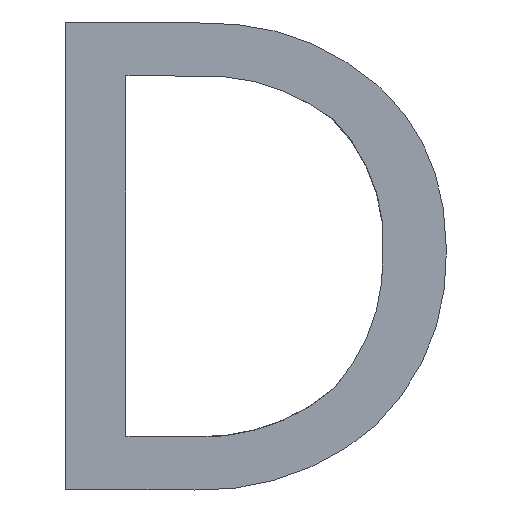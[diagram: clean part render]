
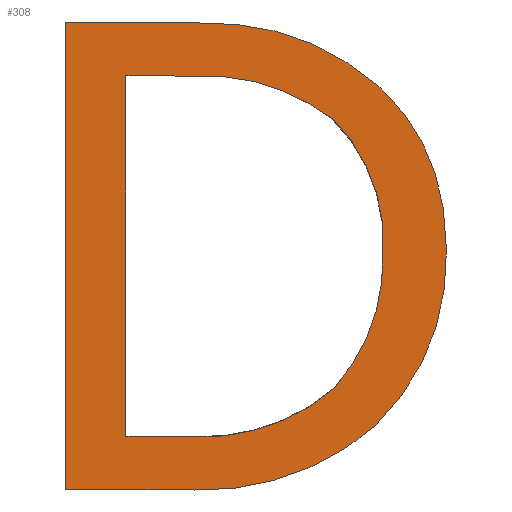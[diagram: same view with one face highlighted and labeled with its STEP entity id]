
A CAD part, front view. The second image highlights one B-rep face of the part: STEP entity #308.
In plain terms, the highlighted planar face has unit normal (0, -1, 0).
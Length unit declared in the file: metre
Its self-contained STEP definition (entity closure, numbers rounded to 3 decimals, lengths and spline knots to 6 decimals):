
#15=LINE('',#571,#31);
#18=LINE('',#577,#34);
#20=LINE('',#580,#36);
#23=LINE('',#587,#39);
#26=LINE('',#593,#42);
#28=LINE('',#650,#44);
#31=VECTOR('',#477,1.);
#34=VECTOR('',#482,1.);
#36=VECTOR('',#486,1.);
#39=VECTOR('',#491,1.);
#42=VECTOR('',#496,1.);
#44=VECTOR('',#518,1.);
#52=PLANE('',#446);
#65=B_SPLINE_CURVE_WITH_KNOTS('',3,(#621,#622,#623,#624),.UNSPECIFIED.,
 .F.,.F.,(4,4),(3.,4.),.UNSPECIFIED.);
#139=ORIENTED_EDGE('',*,*,#171,.F.);
#140=ORIENTED_EDGE('',*,*,#173,.F.);
#141=ORIENTED_EDGE('',*,*,#155,.F.);
#142=ORIENTED_EDGE('',*,*,#159,.F.);
#143=ORIENTED_EDGE('',*,*,#162,.F.);
#144=ORIENTED_EDGE('',*,*,#165,.F.);
#145=ORIENTED_EDGE('',*,*,#168,.F.);
#146=ORIENTED_EDGE('',*,*,#194,.T.);
#147=ORIENTED_EDGE('',*,*,#191,.T.);
#148=ORIENTED_EDGE('',*,*,#188,.T.);
#149=ORIENTED_EDGE('',*,*,#185,.T.);
#150=ORIENTED_EDGE('',*,*,#182,.T.);
#151=ORIENTED_EDGE('',*,*,#179,.T.);
#152=ORIENTED_EDGE('',*,*,#176,.T.);
#155=EDGE_CURVE('',#197,#198,#224,.T.);
#159=EDGE_CURVE('',#200,#197,#226,.T.);
#162=EDGE_CURVE('',#202,#200,#228,.T.);
#165=EDGE_CURVE('',#204,#202,#230,.T.);
#168=EDGE_CURVE('',#206,#204,#15,.T.);
#171=EDGE_CURVE('',#208,#206,#18,.T.);
#173=EDGE_CURVE('',#198,#208,#20,.T.);
#176=EDGE_CURVE('',#212,#211,#23,.T.);
#179=EDGE_CURVE('',#214,#212,#26,.T.);
#182=EDGE_CURVE('',#216,#214,#232,.T.);
#185=EDGE_CURVE('',#218,#216,#65,.T.);
#188=EDGE_CURVE('',#220,#218,#234,.T.);
#191=EDGE_CURVE('',#222,#220,#236,.T.);
#194=EDGE_CURVE('',#211,#222,#28,.T.);
#197=VERTEX_POINT('',#532);
#198=VERTEX_POINT('',#534);
#200=VERTEX_POINT('',#546);
#202=VERTEX_POINT('',#555);
#204=VERTEX_POINT('',#564);
#206=VERTEX_POINT('',#570);
#208=VERTEX_POINT('',#576);
#211=VERTEX_POINT('',#586);
#212=VERTEX_POINT('',#588);
#214=VERTEX_POINT('',#594);
#216=VERTEX_POINT('',#603);
#218=VERTEX_POINT('',#625);
#220=VERTEX_POINT('',#634);
#222=VERTEX_POINT('',#643);
#224=CIRCLE('',#420,0.000084);
#226=CIRCLE('',#423,0.000075);
#228=CIRCLE('',#426,0.000076);
#230=CIRCLE('',#429,0.000086);
#232=CIRCLE('',#437,0.000102);
#234=CIRCLE('',#440,0.000094);
#236=CIRCLE('',#443,0.000112);
#253=EDGE_LOOP('',(#139,#140,#141,#142,#143,#144,#145));
#254=EDGE_LOOP('',(#146,#147,#148,#149,#150,#151,#152));
#271=FACE_BOUND('',#253,.T.);
#272=FACE_BOUND('',#254,.T.);
#308=ADVANCED_FACE('',(#271,#272),#52,.T.);
#420=AXIS2_PLACEMENT_3D('',#533,#453,#454);
#423=AXIS2_PLACEMENT_3D('',#547,#459,#460);
#426=AXIS2_PLACEMENT_3D('',#556,#465,#466);
#429=AXIS2_PLACEMENT_3D('',#565,#471,#472);
#437=AXIS2_PLACEMENT_3D('',#602,#501,#502);
#440=AXIS2_PLACEMENT_3D('',#633,#507,#508);
#443=AXIS2_PLACEMENT_3D('',#642,#513,#514);
#446=AXIS2_PLACEMENT_3D('',#652,#521,#522);
#453=DIRECTION('',(0.,-1.,0.));
#454=DIRECTION('',(0.,0.,-1.));
#459=DIRECTION('',(0.,-1.,0.));
#460=DIRECTION('',(0.,0.,-1.));
#465=DIRECTION('',(0.,-1.,0.));
#466=DIRECTION('',(0.,0.,-1.));
#471=DIRECTION('',(0.,-1.,0.));
#472=DIRECTION('',(0.,0.,-1.));
#477=DIRECTION('',(1.,0.,0.));
#482=DIRECTION('',(0.,0.,-1.));
#486=DIRECTION('',(-1.,0.,0.));
#491=DIRECTION('',(0.,0.,-1.));
#496=DIRECTION('',(-1.,0.,0.));
#501=DIRECTION('',(0.,-1.,0.));
#502=DIRECTION('',(0.,0.,-1.));
#507=DIRECTION('',(0.,-1.,0.));
#508=DIRECTION('',(0.,0.,-1.));
#513=DIRECTION('',(0.,-1.,0.));
#514=DIRECTION('',(0.,0.,-1.));
#518=DIRECTION('',(1.,0.,0.));
#521=DIRECTION('',(0.,-1.,0.));
#522=DIRECTION('',(0.,0.,1.));
#532=CARTESIAN_POINT('',(-0.144711,-0.023259,0.012604));
#533=CARTESIAN_POINT('',(-0.144763,-0.023259,0.012538));
#534=CARTESIAN_POINT('',(-0.144768,-0.023259,0.012621));
#546=CARTESIAN_POINT('',(-0.14469,-0.023259,0.012548));
#547=CARTESIAN_POINT('',(-0.144764,-0.023259,0.012552));
#555=CARTESIAN_POINT('',(-0.144711,-0.023259,0.012491));
#556=CARTESIAN_POINT('',(-0.144766,-0.023259,0.012543));
#564=CARTESIAN_POINT('',(-0.144769,-0.023259,0.012471));
#565=CARTESIAN_POINT('',(-0.144766,-0.023259,0.012557));
#570=CARTESIAN_POINT('',(-0.144797,-0.023259,0.012471));
#571=CARTESIAN_POINT('',(-0.144797,-0.023259,0.012471));
#576=CARTESIAN_POINT('',(-0.144797,-0.023259,0.012622));
#577=CARTESIAN_POINT('',(-0.144797,-0.023259,0.012622));
#580=CARTESIAN_POINT('',(-0.144768,-0.023259,0.012622));
#586=CARTESIAN_POINT('',(-0.144822,-0.023259,0.012449));
#587=CARTESIAN_POINT('',(-0.144822,-0.023259,0.012449));
#588=CARTESIAN_POINT('',(-0.144822,-0.023259,0.012644));
#593=CARTESIAN_POINT('',(-0.144822,-0.023259,0.012644));
#594=CARTESIAN_POINT('',(-0.144767,-0.023259,0.012644));
#602=CARTESIAN_POINT('',(-0.14476,-0.023259,0.012542));
#603=CARTESIAN_POINT('',(-0.144693,-0.023259,0.012618));
#621=CARTESIAN_POINT('',(-0.144664,-0.023259,0.012549));
#622=CARTESIAN_POINT('',(-0.144664,-0.023259,0.012578));
#623=CARTESIAN_POINT('',(-0.144673,-0.023259,0.012601));
#624=CARTESIAN_POINT('',(-0.144693,-0.023259,0.012618));
#625=CARTESIAN_POINT('',(-0.144664,-0.023259,0.012549));
#633=CARTESIAN_POINT('',(-0.144758,-0.023259,0.012545));
#634=CARTESIAN_POINT('',(-0.144693,-0.023259,0.012476));
#642=CARTESIAN_POINT('',(-0.144766,-0.023259,0.01256));
#643=CARTESIAN_POINT('',(-0.144769,-0.023259,0.012449));
#650=CARTESIAN_POINT('',(-0.144769,-0.023259,0.012449));
#652=CARTESIAN_POINT('',(-0.144726,-0.023259,0.012638));
